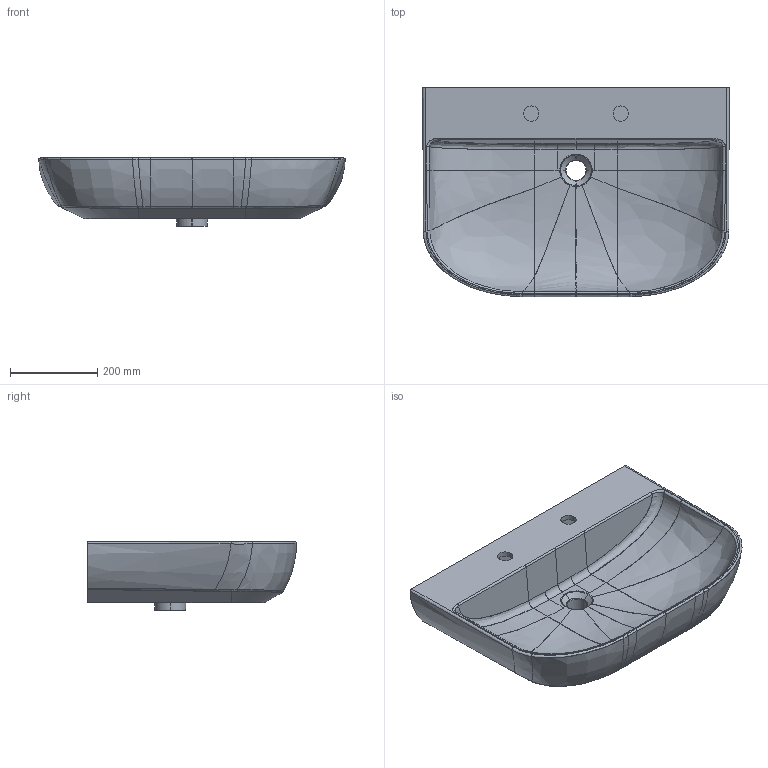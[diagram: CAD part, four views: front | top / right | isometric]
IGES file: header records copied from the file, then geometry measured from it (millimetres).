
Start section: START RECORD GO HERE.
Global section: file name: 5209_3D.igs; native system: DASSAULT SYSTEMES CATIA V5 R19 - www.3ds.com; preprocessor: CATIA Version 5 Release 19 SP 5 ; author: gioge; organization: LAPTOP-G94B6G74; date: 20201024.101503; units: millimetre
Bounding box: 703.53 x 479.98 x 156.5 mm (x, y, z)
Surface area: 962353.5 mm2 (no closed solid volume)
Topology: 0 solids, 0 shells, 141 faces, 676 edges, 672 vertices
Faces by surface type: bspline 126, plane 8, revolution 7
